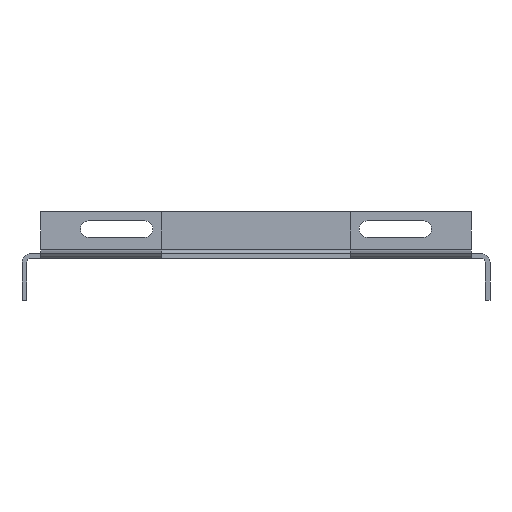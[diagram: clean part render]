
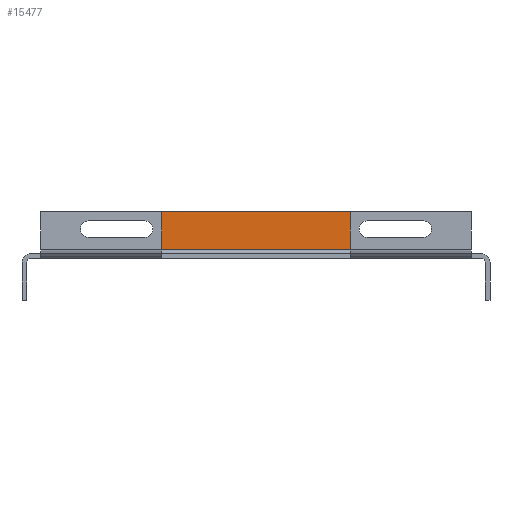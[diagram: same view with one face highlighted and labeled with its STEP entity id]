
A CAD part, front view. The second image highlights one B-rep face of the part: STEP entity #15477.
In plain terms, the highlighted planar face has unit normal (0, -1, 0).
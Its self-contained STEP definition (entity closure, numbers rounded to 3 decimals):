
#1204 = VERTEX_POINT ( 'NONE', #54994 ) ;
#1302 = VERTEX_POINT ( 'NONE', #93806 ) ;
#1318 = VERTEX_POINT ( 'NONE', #11629 ) ;
#1586 = DIRECTION ( 'NONE',  ( -1., 0., 0. ) ) ;
#1728 = FACE_OUTER_BOUND ( 'NONE', #12685, .T. ) ;
#3189 = FACE_BOUND ( 'NONE', #33118, .T. ) ;
#3267 = ORIENTED_EDGE ( 'NONE', *, *, #61052, .T. ) ;
#3430 = VERTEX_POINT ( 'NONE', #9628 ) ;
#4707 = DIRECTION ( 'NONE',  ( 0., 0., 1. ) ) ;
#5575 = DIRECTION ( 'NONE',  ( 0., 0., -1. ) ) ;
#7118 = DIRECTION ( 'NONE',  ( 1., 0., 0. ) ) ;
#7431 = LINE ( 'NONE', #58369, #97141 ) ;
#9064 = LINE ( 'NONE', #39442, #37009 ) ;
#9628 = CARTESIAN_POINT ( 'NONE',  ( -92., 966.3, 1.8 ) ) ;
#10187 = FACE_BOUND ( 'NONE', #48664, .T. ) ;
#11310 = CIRCLE ( 'NONE', #31942, 3.5 ) ;
#11629 = CARTESIAN_POINT ( 'NONE',  ( -71.5, 966.3, 7. ) ) ;
#12101 = EDGE_CURVE ( 'NONE', #75727, #29279, #61985, .T. ) ;
#12685 = EDGE_LOOP ( 'NONE', ( #39131, #97333, #3267, #68997 ) ) ;
#12774 = CARTESIAN_POINT ( 'NONE',  ( -71.5, 966.3, 10.5 ) ) ;
#14389 = DIRECTION ( 'NONE',  ( -1., 0., 0. ) ) ;
#15268 = CARTESIAN_POINT ( 'NONE',  ( -47.5, 966.3, 7. ) ) ;
#15477 = ADVANCED_FACE ( 'NONE', ( #10187, #3189, #1728 ), #33584, .F. ) ;
#15488 = CIRCLE ( 'NONE', #71116, 3.5 ) ;
#17394 = LINE ( 'NONE', #63189, #32888 ) ;
#18627 = DIRECTION ( 'NONE',  ( 0., 0., 1. ) ) ;
#19547 = LINE ( 'NONE', #80311, #69395 ) ;
#19875 = VERTEX_POINT ( 'NONE', #53527 ) ;
#20156 = CARTESIAN_POINT ( 'NONE',  ( -47.5, 966.3, 10.5 ) ) ;
#23897 = DIRECTION ( 'NONE',  ( 1., 0., 0. ) ) ;
#24386 = EDGE_CURVE ( 'NONE', #51903, #1318, #19547, .T. ) ;
#26381 = ORIENTED_EDGE ( 'NONE', *, *, #24386, .T. ) ;
#27350 = ORIENTED_EDGE ( 'NONE', *, *, #30588, .T. ) ;
#28838 = AXIS2_PLACEMENT_3D ( 'NONE', #12774, #43152, #88948 ) ;
#29279 = VERTEX_POINT ( 'NONE', #85119 ) ;
#30588 = EDGE_CURVE ( 'NONE', #96423, #1302, #11310, .T. ) ;
#31942 = AXIS2_PLACEMENT_3D ( 'NONE', #53204, #83580, #75129 ) ;
#32888 = VECTOR ( 'NONE', #23897, 1000. ) ;
#33118 = EDGE_LOOP ( 'NONE', ( #40909, #73891, #89627, #27350 ) ) ;
#33584 = PLANE ( 'NONE',  #79586 ) ;
#34059 = DIRECTION ( 'NONE',  ( 0., 1., 0. ) ) ;
#37009 = VECTOR ( 'NONE', #1586, 1000. ) ;
#38591 = DIRECTION ( 'NONE',  ( 0., 0., 1. ) ) ;
#39131 = ORIENTED_EDGE ( 'NONE', *, *, #77448, .F. ) ;
#39442 = CARTESIAN_POINT ( 'NONE',  ( 0., 966.3, 7. ) ) ;
#39480 = EDGE_CURVE ( 'NONE', #1204, #93410, #15488, .T. ) ;
#39614 = EDGE_CURVE ( 'NONE', #1302, #1204, #65404, .T. ) ;
#40909 = ORIENTED_EDGE ( 'NONE', *, *, #39614, .T. ) ;
#42843 = CARTESIAN_POINT ( 'NONE',  ( 0., 966.3, 18. ) ) ;
#43002 = CARTESIAN_POINT ( 'NONE',  ( 71.5, 966.3, 10.5 ) ) ;
#43152 = DIRECTION ( 'NONE',  ( 0., 1., 0. ) ) ;
#43495 = CARTESIAN_POINT ( 'NONE',  ( 0., 966.3, 14. ) ) ;
#44858 = EDGE_CURVE ( 'NONE', #1318, #19875, #66999, .T. ) ;
#48664 = EDGE_LOOP ( 'NONE', ( #26381, #75671, #56934, #84735 ) ) ;
#51903 = VERTEX_POINT ( 'NONE', #15268 ) ;
#53204 = CARTESIAN_POINT ( 'NONE',  ( 47.5, 966.3, 10.5 ) ) ;
#53390 = VECTOR ( 'NONE', #67217, 1000. ) ;
#53457 = EDGE_CURVE ( 'NONE', #72729, #51903, #71597, .T. ) ;
#53527 = CARTESIAN_POINT ( 'NONE',  ( -71.5, 966.3, 14. ) ) ;
#54994 = CARTESIAN_POINT ( 'NONE',  ( 71.5, 966.3, 14. ) ) ;
#55963 = CARTESIAN_POINT ( 'NONE',  ( 92., 966.3, 0. ) ) ;
#56934 = ORIENTED_EDGE ( 'NONE', *, *, #63876, .T. ) ;
#58369 = CARTESIAN_POINT ( 'NONE',  ( -92., 966.3, 0. ) ) ;
#60297 = CARTESIAN_POINT ( 'NONE',  ( 92., 966.3, 1.8 ) ) ;
#61052 = EDGE_CURVE ( 'NONE', #29279, #78485, #73217, .T. ) ;
#61294 = CARTESIAN_POINT ( 'NONE',  ( 47.5, 966.3, 7. ) ) ;
#61985 = LINE ( 'NONE', #55963, #76025 ) ;
#63189 = CARTESIAN_POINT ( 'NONE',  ( 0., 966.3, 14. ) ) ;
#63239 = CARTESIAN_POINT ( 'NONE',  ( -92., 966.3, 18. ) ) ;
#63876 = EDGE_CURVE ( 'NONE', #19875, #72729, #17394, .T. ) ;
#63954 = CARTESIAN_POINT ( 'NONE',  ( 0., 966.3, 0. ) ) ;
#65404 = LINE ( 'NONE', #43495, #80734 ) ;
#66946 = DIRECTION ( 'NONE',  ( 0., 1., 0. ) ) ;
#66999 = CIRCLE ( 'NONE', #28838, 3.5 ) ;
#67217 = DIRECTION ( 'NONE',  ( -1., 0., 0. ) ) ;
#68997 = ORIENTED_EDGE ( 'NONE', *, *, #69038, .T. ) ;
#69038 = EDGE_CURVE ( 'NONE', #78485, #3430, #7431, .T. ) ;
#69132 = CARTESIAN_POINT ( 'NONE',  ( 96.2, 966.3, 1.8 ) ) ;
#69395 = VECTOR ( 'NONE', #72817, 1000. ) ;
#69601 = CARTESIAN_POINT ( 'NONE',  ( -47.5, 966.3, 14. ) ) ;
#70815 = EDGE_CURVE ( 'NONE', #93410, #96423, #9064, .T. ) ;
#71116 = AXIS2_PLACEMENT_3D ( 'NONE', #43002, #34059, #88321 ) ;
#71597 = CIRCLE ( 'NONE', #84351, 3.5 ) ;
#72729 = VERTEX_POINT ( 'NONE', #69601 ) ;
#72817 = DIRECTION ( 'NONE',  ( -1., 0., 0. ) ) ;
#73217 = LINE ( 'NONE', #42843, #53390 ) ;
#73891 = ORIENTED_EDGE ( 'NONE', *, *, #39480, .T. ) ;
#75129 = DIRECTION ( 'NONE',  ( 0., 0., 1. ) ) ;
#75671 = ORIENTED_EDGE ( 'NONE', *, *, #44858, .T. ) ;
#75727 = VERTEX_POINT ( 'NONE', #60297 ) ;
#76025 = VECTOR ( 'NONE', #38591, 1000. ) ;
#77448 = EDGE_CURVE ( 'NONE', #75727, #3430, #82606, .T. ) ;
#78485 = VERTEX_POINT ( 'NONE', #63239 ) ;
#79586 = AXIS2_PLACEMENT_3D ( 'NONE', #63954, #92374, #18627 ) ;
#80311 = CARTESIAN_POINT ( 'NONE',  ( 0., 966.3, 7. ) ) ;
#80734 = VECTOR ( 'NONE', #7118, 1000. ) ;
#82606 = LINE ( 'NONE', #69132, #95994 ) ;
#82822 = CARTESIAN_POINT ( 'NONE',  ( 71.5, 966.3, 7. ) ) ;
#83580 = DIRECTION ( 'NONE',  ( 0., 1., 0. ) ) ;
#84351 = AXIS2_PLACEMENT_3D ( 'NONE', #20156, #66946, #4707 ) ;
#84735 = ORIENTED_EDGE ( 'NONE', *, *, #53457, .T. ) ;
#85119 = CARTESIAN_POINT ( 'NONE',  ( 92., 966.3, 18. ) ) ;
#88321 = DIRECTION ( 'NONE',  ( 0., 0., 1. ) ) ;
#88948 = DIRECTION ( 'NONE',  ( 0., 0., 1. ) ) ;
#89627 = ORIENTED_EDGE ( 'NONE', *, *, #70815, .T. ) ;
#92374 = DIRECTION ( 'NONE',  ( 0., 1., 0. ) ) ;
#93410 = VERTEX_POINT ( 'NONE', #82822 ) ;
#93806 = CARTESIAN_POINT ( 'NONE',  ( 47.5, 966.3, 14. ) ) ;
#95994 = VECTOR ( 'NONE', #14389, 1000. ) ;
#96423 = VERTEX_POINT ( 'NONE', #61294 ) ;
#97141 = VECTOR ( 'NONE', #5575, 1000. ) ;
#97333 = ORIENTED_EDGE ( 'NONE', *, *, #12101, .T. ) ;
